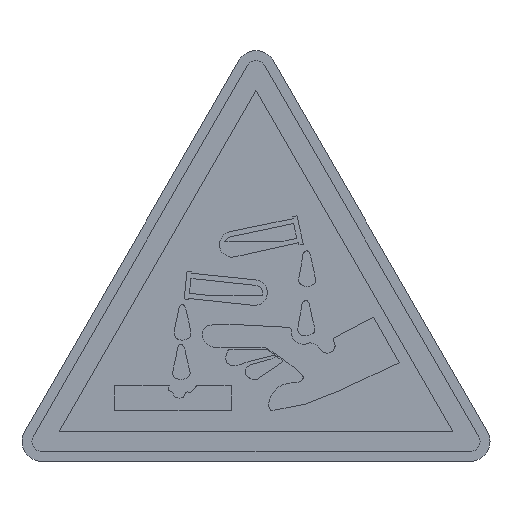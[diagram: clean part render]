
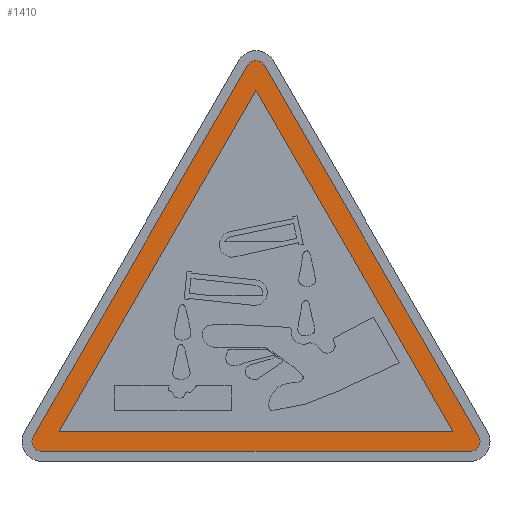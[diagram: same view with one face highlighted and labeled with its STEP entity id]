
A CAD part, top view. The second image highlights one B-rep face of the part: STEP entity #1410.
In plain terms, the highlighted planar face has unit normal (0, 0, 1).
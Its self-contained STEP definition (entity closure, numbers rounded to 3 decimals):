
#58 = PLANE ( 'NONE',  #2283 ) ;
#139 = ORIENTED_EDGE ( 'NONE', *, *, #634, .T. ) ;
#175 = DIRECTION ( 'NONE',  ( -0.5, 0.866, 0. ) ) ;
#191 = DIRECTION ( 'NONE',  ( -0.5, -0.866, 0. ) ) ;
#199 = EDGE_CURVE ( 'NONE', #2538, #631, #2313, .T. ) ;
#230 = VERTEX_POINT ( 'NONE', #1755 ) ;
#244 = CARTESIAN_POINT ( 'NONE',  ( 0., 37.301, 0.22 ) ) ;
#300 = CARTESIAN_POINT ( 'NONE',  ( 0., 39.301, 0.22 ) ) ;
#340 = CARTESIAN_POINT ( 'NONE',  ( -19.804, 3., 0.22 ) ) ;
#381 = DIRECTION ( 'NONE',  ( 0., 0., 1. ) ) ;
#412 = CARTESIAN_POINT ( 'NONE',  ( 22.402, 2.5, 0.22 ) ) ;
#530 = EDGE_CURVE ( 'NONE', #2899, #573, #1502, .T. ) ;
#573 = VERTEX_POINT ( 'NONE', #1603 ) ;
#631 = VERTEX_POINT ( 'NONE', #2384 ) ;
#634 = EDGE_CURVE ( 'NONE', #2387, #3935, #4050, .T. ) ;
#731 = ORIENTED_EDGE ( 'NONE', *, *, #2437, .T. ) ;
#749 = FACE_BOUND ( 'NONE', #765, .T. ) ;
#765 = EDGE_LOOP ( 'NONE', ( #950, #2407, #3207 ) ) ;
#778 = CARTESIAN_POINT ( 'NONE',  ( -21.536, 2., 0.22 ) ) ;
#899 = VECTOR ( 'NONE', #1358, 1000. ) ;
#950 = ORIENTED_EDGE ( 'NONE', *, *, #3483, .F. ) ;
#974 = ORIENTED_EDGE ( 'NONE', *, *, #4002, .T. ) ;
#1060 = LINE ( 'NONE', #412, #1366 ) ;
#1179 = EDGE_CURVE ( 'NONE', #1971, #3962, #3509, .T. ) ;
#1208 = VECTOR ( 'NONE', #191, 1000. ) ;
#1267 = CARTESIAN_POINT ( 'NONE',  ( -21.536, 1., 0.22 ) ) ;
#1319 = FACE_OUTER_BOUND ( 'NONE', #3484, .T. ) ;
#1357 = CARTESIAN_POINT ( 'NONE',  ( 0., 39.301, 0.22 ) ) ;
#1358 = DIRECTION ( 'NONE',  ( 1., 0., 0. ) ) ;
#1366 = VECTOR ( 'NONE', #2063, 1000. ) ;
#1389 = EDGE_CURVE ( 'NONE', #3935, #2899, #2113, .T. ) ;
#1410 = ADVANCED_FACE ( 'NONE', ( #1319, #749 ), #58, .T. ) ;
#1448 = EDGE_CURVE ( 'NONE', #631, #230, #3401, .T. ) ;
#1466 = CARTESIAN_POINT ( 'NONE',  ( 22.402, 2.5, 0.22 ) ) ;
#1502 = LINE ( 'NONE', #1267, #4023 ) ;
#1563 = ORIENTED_EDGE ( 'NONE', *, *, #3980, .T. ) ;
#1603 = CARTESIAN_POINT ( 'NONE',  ( 21.536, 1., 0.22 ) ) ;
#1629 = DIRECTION ( 'NONE',  ( 1., 0., 0. ) ) ;
#1665 = DIRECTION ( 'NONE',  ( -0.5, -0.866, 0. ) ) ;
#1716 = AXIS2_PLACEMENT_3D ( 'NONE', #300, #2282, #3555 ) ;
#1734 = DIRECTION ( 'NONE',  ( 0., 0., 1. ) ) ;
#1755 = CARTESIAN_POINT ( 'NONE',  ( -19.804, 3., 0.22 ) ) ;
#1794 = CARTESIAN_POINT ( 'NONE',  ( 19.804, 3., 0.22 ) ) ;
#1908 = AXIS2_PLACEMENT_3D ( 'NONE', #778, #1734, #2082 ) ;
#1917 = CARTESIAN_POINT ( 'NONE',  ( -0.866, 39.801, 0.22 ) ) ;
#1933 = CARTESIAN_POINT ( 'NONE',  ( 0.866, 39.801, 0.22 ) ) ;
#1971 = VERTEX_POINT ( 'NONE', #1933 ) ;
#2031 = CARTESIAN_POINT ( 'NONE',  ( 19.804, 3., 0.22 ) ) ;
#2060 = CARTESIAN_POINT ( 'NONE',  ( -22.402, 2.5, 0.22 ) ) ;
#2063 = DIRECTION ( 'NONE',  ( -0.5, 0.866, 0. ) ) ;
#2082 = DIRECTION ( 'NONE',  ( 1., 0., 0. ) ) ;
#2113 = CIRCLE ( 'NONE', #3842, 1. ) ;
#2282 = DIRECTION ( 'NONE',  ( 0., 0., 1. ) ) ;
#2283 = AXIS2_PLACEMENT_3D ( 'NONE', #1357, #381, #3446 ) ;
#2308 = ORIENTED_EDGE ( 'NONE', *, *, #530, .T. ) ;
#2313 = LINE ( 'NONE', #1794, #3316 ) ;
#2369 = DIRECTION ( 'NONE',  ( 0., 0., 1. ) ) ;
#2384 = CARTESIAN_POINT ( 'NONE',  ( 0., 37.301, 0.22 ) ) ;
#2387 = VERTEX_POINT ( 'NONE', #2060 ) ;
#2407 = ORIENTED_EDGE ( 'NONE', *, *, #1448, .F. ) ;
#2437 = EDGE_CURVE ( 'NONE', #573, #3599, #3210, .T. ) ;
#2505 = DIRECTION ( 'NONE',  ( 1., 0., 0. ) ) ;
#2538 = VERTEX_POINT ( 'NONE', #2031 ) ;
#2603 = ORIENTED_EDGE ( 'NONE', *, *, #1389, .T. ) ;
#2621 = CARTESIAN_POINT ( 'NONE',  ( -0.866, 39.801, 0.22 ) ) ;
#2657 = LINE ( 'NONE', #340, #899 ) ;
#2764 = CARTESIAN_POINT ( 'NONE',  ( -21.536, 1., 0.22 ) ) ;
#2809 = AXIS2_PLACEMENT_3D ( 'NONE', #3431, #2942, #1629 ) ;
#2899 = VERTEX_POINT ( 'NONE', #2764 ) ;
#2942 = DIRECTION ( 'NONE',  ( 0., 0., 1. ) ) ;
#2988 = CARTESIAN_POINT ( 'NONE',  ( -21.536, 2., 0.22 ) ) ;
#3183 = CARTESIAN_POINT ( 'NONE',  ( -22.536, 2., 0.22 ) ) ;
#3207 = ORIENTED_EDGE ( 'NONE', *, *, #199, .F. ) ;
#3210 = CIRCLE ( 'NONE', #2809, 1. ) ;
#3316 = VECTOR ( 'NONE', #175, 1000. ) ;
#3401 = LINE ( 'NONE', #244, #1208 ) ;
#3431 = CARTESIAN_POINT ( 'NONE',  ( 21.536, 2., 0.22 ) ) ;
#3446 = DIRECTION ( 'NONE',  ( 1., 0., 0. ) ) ;
#3483 = EDGE_CURVE ( 'NONE', #230, #2538, #2657, .T. ) ;
#3484 = EDGE_LOOP ( 'NONE', ( #4066, #974, #139, #2603, #2308, #731, #1563 ) ) ;
#3509 = CIRCLE ( 'NONE', #1716, 1. ) ;
#3555 = DIRECTION ( 'NONE',  ( 1., 0., 0. ) ) ;
#3571 = VECTOR ( 'NONE', #1665, 1000. ) ;
#3599 = VERTEX_POINT ( 'NONE', #1466 ) ;
#3663 = LINE ( 'NONE', #2621, #3571 ) ;
#3842 = AXIS2_PLACEMENT_3D ( 'NONE', #2988, #2369, #3958 ) ;
#3935 = VERTEX_POINT ( 'NONE', #3183 ) ;
#3958 = DIRECTION ( 'NONE',  ( 1., 0., 0. ) ) ;
#3962 = VERTEX_POINT ( 'NONE', #1917 ) ;
#3980 = EDGE_CURVE ( 'NONE', #3599, #1971, #1060, .T. ) ;
#4002 = EDGE_CURVE ( 'NONE', #3962, #2387, #3663, .T. ) ;
#4023 = VECTOR ( 'NONE', #2505, 1000. ) ;
#4050 = CIRCLE ( 'NONE', #1908, 1. ) ;
#4066 = ORIENTED_EDGE ( 'NONE', *, *, #1179, .T. ) ;
